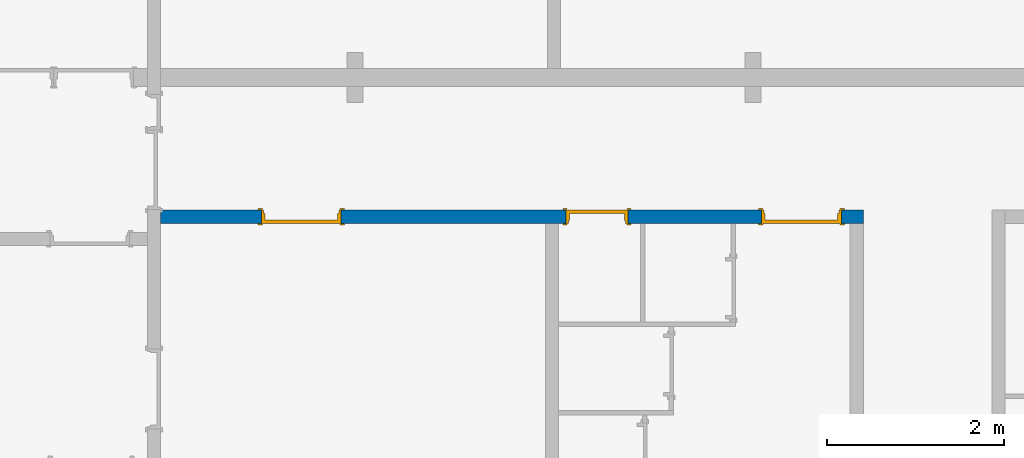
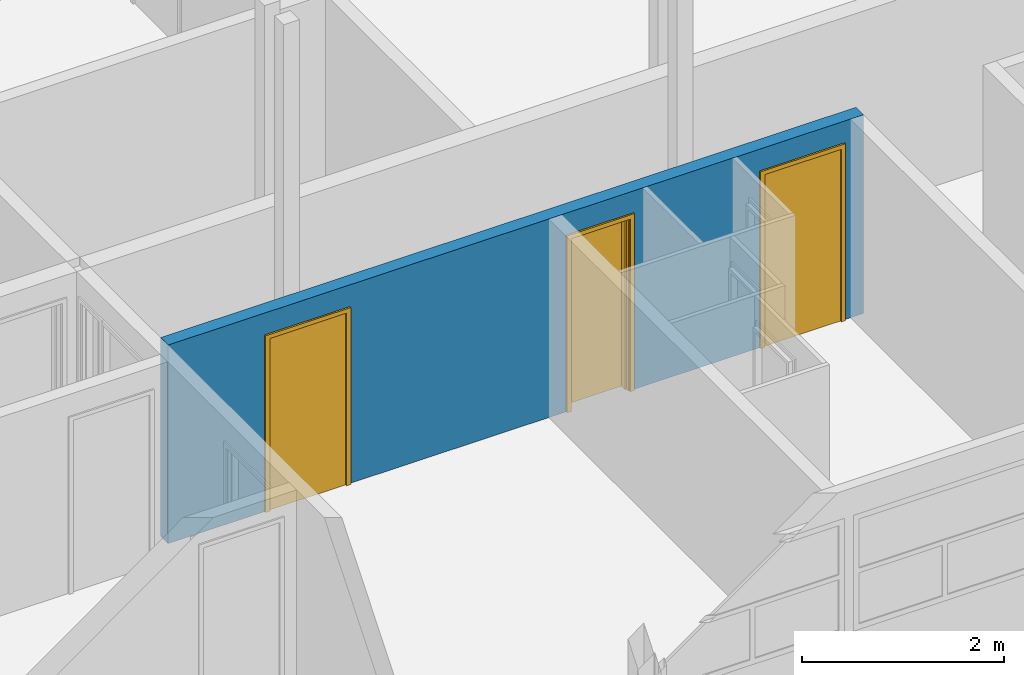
# One storey, part 13 of 48: 3 doors, 1 wall, 3 openings.
"""IFC2X3 building model written with IfcOpenShell, lengths in millimetres."""

from ifc_helpers import new_model, entity, si_unit, converted_unit, derived_unit, money_unit, direction, frame, origin_with_axes, place, context, subcontext, project, spatial, faceted_brep, source, transform, mapped, material, type_object, element, fill, save


model = new_model("IFC2X3")

# Units and contexts
model_context = context("Model", 3, precision=0.01, world=origin_with_axes(), true_north=direction((0.0, 1.0)))
body_context = subcontext(model_context, "Body", "Model", "MODEL_VIEW")
ifc_project = project(units=[si_unit("LENGTHUNIT", "METRE", prefix="MILLI"), si_unit("AREAUNIT", "SQUARE_METRE"), si_unit("VOLUMEUNIT", "CUBIC_METRE"), converted_unit("PLANEANGLEUNIT", "DEGREE", entity("IfcPlaneAngleMeasure", 0.0174532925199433), si_unit("PLANEANGLEUNIT", "RADIAN"), dimensions=[0, 0, 0, 0, 0, 0, 0]), money_unit("USD"), converted_unit("TIMEUNIT", "Year", entity("IfcTimeMeasure", 31557600.0), si_unit("TIMEUNIT", "SECOND"), dimensions=[0, 0, 1, 0, 0, 0, 0]), si_unit("MASSUNIT", "GRAM", prefix="KILO"), si_unit("THERMODYNAMICTEMPERATUREUNIT", "DEGREE_CELSIUS"), si_unit("LUMINOUSINTENSITYUNIT", "LUMEN"), si_unit("ENERGYUNIT", "JOULE", prefix="MEGA"), derived_unit("THERMALCONDUCTANCEUNIT", [(si_unit("POWERUNIT", "WATT"), 1), (si_unit("LENGTHUNIT", "METRE"), -1), (si_unit("THERMODYNAMICTEMPERATUREUNIT", "KELVIN"), -1)]), derived_unit("SPECIFICHEATCAPACITYUNIT", [(si_unit("ENERGYUNIT", "JOULE"), 1), (si_unit("MASSUNIT", "GRAM", prefix="KILO"), -1), (si_unit("THERMODYNAMICTEMPERATUREUNIT", "KELVIN"), -1)]), derived_unit("MASSDENSITYUNIT", [(si_unit("MASSUNIT", "GRAM", prefix="KILO"), 1), (si_unit("VOLUMEUNIT", "CUBIC_METRE"), -1)])], contexts=[model_context])

# Site, building, storey
site_placement = place(None, origin_with_axes())
site = spatial("IfcSite", under=ifc_project, at=site_placement, Name="Site", CompositionType="ELEMENT")
building_placement = place(site_placement, origin_with_axes())
building = spatial("IfcBuilding", under=site, at=building_placement, Name="Building", CompositionType="ELEMENT")
storey_placement = place(building_placement, frame((0.0, 0.0, 3300.0), z_axis=(0.0, 0.0, 1.0), x_axis=(1.0, 0.0, 0.0)))
storey = spatial("IfcBuildingStorey", under=building, at=storey_placement, Name="1 ETG", CompositionType="ELEMENT", Elevation=3300.0)

# Wall, openings, doors
ifc_material = material(Name="GENERIC - INTERNAL FILLER")
wall_type = type_object("IfcWallType", Name="GENERIC - INTERNAL FILLER 150", PredefinedType="NOTDEFINED")
wall_placement = place(storey_placement, frame((24800.2662126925, 12999.87497638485, 0.0), z_axis=(0.0, 0.0, 1.0), x_axis=(1.0, 0.0, 0.0)))
wall = element("IfcWall", 1, at=wall_placement, inside=storey, type_object=wall_type, material=ifc_material, Name="SW - 001", context=body_context, shape_type="Brep", body=[
    faceted_brep([(4584.487348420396, 0.0, 2100.0), (4584.487348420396, 0.0, 0.0), (2040.200949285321, 0.0, 0.0), (2040.200949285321, 0.0, 2100.0), (1140.200949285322, 0.0, 2100.0), (1140.200949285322, 0.0, 0.0), (0.0, 0.0, 0.0), (0.0, 0.0, 2400.0), (7946.894332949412, 0.0, 2400.0), (7946.894332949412, 0.0, 0.0), (7696.514391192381, 0.0, 0.0), (7696.514391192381, 0.0, 2100.0), (6796.514391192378, 0.0, 2100.0), (6796.514391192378, 0.0, 0.0), (5284.487348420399, 0.0, 0.0), (5284.487348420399, 0.0, 2100.0), (4584.487348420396, -150.0000000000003, 2100.0), (4584.487348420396, -150.0000000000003, 0.0), (2040.200949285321, -150.0000000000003, 0.0), (2040.200949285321, -150.0000000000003, 2100.0), (1140.200949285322, -150.0000000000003, 2100.0), (1140.200949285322, -150.0000000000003, 0.0), (0.0, -150.0000000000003, 0.0), (0.0, -150.0000000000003, 2400.0), (7946.894332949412, -149.9999999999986, 2400.0), (7946.894332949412, -150.0000000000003, 0.0), (7696.514391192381, -150.0000000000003, 0.0), (7696.514391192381, -150.0000000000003, 2100.0), (6796.514391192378, -150.0000000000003, 2100.0), (6796.514391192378, -150.0000000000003, 0.0), (5284.487348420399, -150.0000000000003, 0.0), (5284.487348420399, -150.0000000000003, 2100.0)], [[[0, 1, 2, 3, 4, 5, 6, 7, 8, 9, 10, 11, 12, 13, 14, 15]], [[1, 0, 16, 17]], [[1, 17, 18, 2]], [[18, 19, 3, 2]], [[19, 20, 4, 3]], [[20, 21, 5, 4]], [[22, 6, 5, 21]], [[6, 22, 23, 7]], [[23, 24, 8, 7]], [[9, 8, 24, 25]], [[10, 9, 25, 26]], [[10, 26, 27, 11]], [[11, 27, 28, 12]], [[12, 28, 29, 13]], [[30, 14, 13, 29]], [[15, 14, 30, 31]], [[0, 15, 31, 16]], [[31, 30, 29, 28, 27, 26, 25, 24, 23, 22, 21, 20, 19, 18, 17, 16]]]),
])
opening_1_placement = place(wall_placement, frame((1590.200949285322, 0.0, 0.0), z_axis=(0.0, 0.0, 1.0), x_axis=(1.0, 0.0, 0.0)))
opening_1 = element("IfcOpeningElement", 2, at=opening_1_placement, cuts=wall, Name="DOO - 002", context=body_context, shape_type="Brep", body=[
    faceted_brep([(-449.9999999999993, -150.0000000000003, 2100.0), (449.9999999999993, -150.0000000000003, 2100.0), (449.9999999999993, 0.0, 2100.0), (-449.9999999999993, 0.0, 2100.0), (449.9999999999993, -150.0000000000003, 0.0), (-449.9999999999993, -150.0000000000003, 0.0), (-486.9999999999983, -150.0000000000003, 0.0), (-486.9999999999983, -150.0000000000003, 2137.0), (486.9999999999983, -150.0000000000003, 2137.0), (486.9999999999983, -150.0000000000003, 0.0), (449.9999999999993, 0.0, 0.0), (486.9999999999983, 0.0, 0.0), (486.9999999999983, 0.0, 2137.0), (-486.9999999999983, 0.0, 2137.0), (-486.9999999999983, 0.0, 0.0), (-449.9999999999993, 0.0, 0.0), (-449.9999999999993, -150.9999999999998, 0.0), (-486.9999999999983, -150.9999999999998, 0.0), (-486.9999999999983, -150.9999999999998, 2137.0), (486.9999999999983, -150.9999999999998, 2137.0), (486.9999999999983, -150.9999999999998, 0.0), (449.9999999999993, -150.9999999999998, 0.0), (-449.9999999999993, 0.9999999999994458, 0.0), (449.9999999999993, 0.9999999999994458, 0.0), (486.9999999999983, 0.9999999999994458, 0.0), (486.9999999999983, 0.9999999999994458, 2137.0), (-486.9999999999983, 0.9999999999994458, 2137.0), (-486.9999999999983, 0.9999999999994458, 0.0), (-449.9999999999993, -150.9999999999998, 2100.0), (449.9999999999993, -150.9999999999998, 2100.0)], [[[0, 1, 2, 3]], [[4, 1, 0, 5, 6, 7, 8, 9]], [[1, 4, 10, 2]], [[3, 2, 10, 11, 12, 13, 14, 15]], [[5, 0, 3, 15]], [[5, 16, 17, 6]], [[7, 6, 17, 18]], [[8, 7, 18, 19]], [[9, 8, 19, 20]], [[21, 4, 9, 20]], [[16, 5, 15, 22, 23, 10, 4, 21]], [[10, 23, 24, 11]], [[12, 11, 24, 25]], [[13, 12, 25, 26]], [[14, 13, 26, 27]], [[22, 15, 14, 27]], [[28, 29, 21, 20, 19, 18, 17, 16]], [[23, 22, 27, 26, 25, 24]], [[28, 16, 21, 29]]]),
])
opening_2_placement = place(wall_placement, frame((4934.487348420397, 0.0, 0.0), z_axis=(0.0, 0.0, 1.0), x_axis=(1.0, 0.0, 0.0)))
opening_2 = element("IfcOpeningElement", 3, at=opening_2_placement, cuts=wall, Name="DOO - 002", context=body_context, shape_type="Brep", body=[
    faceted_brep([(-350.0000000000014, 0.9999999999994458, 2100.0), (350.0000000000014, 0.9999999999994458, 2100.0), (350.0000000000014, 0.9999999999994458, 0.0), (-350.0000000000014, 0.9999999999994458, 0.0), (-387.0000000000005, 0.9999999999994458, 0.0), (-387.0000000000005, 0.9999999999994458, 2137.0), (387.0000000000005, 0.9999999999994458, 2137.0), (387.0000000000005, 0.9999999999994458, 0.0), (-350.0000000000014, 0.0, 0.0), (350.0000000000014, 0.0, 0.0), (350.0000000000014, -150.0000000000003, 0.0), (350.0000000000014, -150.9999999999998, 0.0), (-350.0000000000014, -150.9999999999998, 0.0), (-350.0000000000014, -150.0000000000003, 0.0), (-387.0000000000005, 0.0, 0.0), (-387.0000000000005, 0.0, 2137.0), (387.0000000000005, 0.0, 2137.0), (387.0000000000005, 0.0, 0.0), (350.0000000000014, 0.0, 2100.0), (350.0000000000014, -150.0000000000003, 2100.0), (387.0000000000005, -150.0000000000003, 0.0), (387.0000000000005, -150.9999999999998, 0.0), (387.0000000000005, -150.9999999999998, 2137.0), (-387.0000000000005, -150.9999999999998, 2137.0), (-387.0000000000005, -150.9999999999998, 0.0), (-387.0000000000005, -150.0000000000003, 0.0), (-350.0000000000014, 0.0, 2100.0), (-350.0000000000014, -150.0000000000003, 2100.0), (-387.0000000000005, -150.0000000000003, 2137.0), (387.0000000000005, -150.0000000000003, 2137.0)], [[[0, 1, 2, 3]], [[2, 1, 0, 3, 4, 5, 6, 7]], [[8, 3, 2, 9, 10, 11, 12, 13]], [[3, 8, 14, 4]], [[14, 15, 5, 4]], [[15, 16, 6, 5]], [[16, 17, 7, 6]], [[9, 2, 7, 17]], [[9, 18, 19, 10]], [[11, 10, 20, 21]], [[12, 11, 21, 22, 23, 24]], [[13, 12, 24, 25]], [[26, 8, 13, 27]], [[26, 18, 9, 17, 16, 15, 14, 8]], [[18, 26, 27, 19]], [[10, 19, 27, 13, 25, 28, 29, 20]], [[20, 29, 22, 21]], [[29, 28, 23, 22]], [[28, 25, 24, 23]]]),
])
opening_3_placement = place(wall_placement, frame((7246.514391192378, 0.0, 0.0), z_axis=(0.0, 0.0, 1.0), x_axis=(1.0, 0.0, 0.0)))
opening_3 = element("IfcOpeningElement", 4, at=opening_3_placement, cuts=wall, Name="DOO - 002", context=body_context, shape_type="Brep", body=[
    faceted_brep([(-449.9999999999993, -150.0000000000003, 2100.0), (450.0000000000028, -150.0000000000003, 2100.0), (450.0000000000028, 0.0, 2100.0), (-449.9999999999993, 0.0, 2100.0), (450.0000000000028, -150.0000000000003, 0.0), (-449.9999999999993, -150.0000000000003, 0.0), (-486.9999999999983, -150.0000000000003, 0.0), (-486.9999999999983, -150.0000000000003, 2137.0), (487.0000000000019, -150.0000000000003, 2137.0), (487.0000000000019, -150.0000000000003, 0.0), (450.0000000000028, 0.0, 0.0), (487.0000000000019, 0.0, 0.0), (487.0000000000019, 0.0, 2137.0), (-486.9999999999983, 0.0, 2137.0), (-486.9999999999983, 0.0, 0.0), (-449.9999999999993, 0.0, 0.0), (-449.9999999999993, -150.9999999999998, 0.0), (-486.9999999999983, -150.9999999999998, 0.0), (-486.9999999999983, -150.9999999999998, 2137.0), (487.0000000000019, -150.9999999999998, 2137.0), (487.0000000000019, -150.9999999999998, 0.0), (450.0000000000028, -150.9999999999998, 0.0), (-449.9999999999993, 0.9999999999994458, 0.0), (450.0000000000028, 0.9999999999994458, 0.0), (487.0000000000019, 0.9999999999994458, 0.0), (487.0000000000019, 0.9999999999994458, 2137.0), (-486.9999999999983, 0.9999999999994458, 2137.0), (-486.9999999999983, 0.9999999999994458, 0.0), (-449.9999999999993, -150.9999999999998, 2100.0), (450.0000000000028, -150.9999999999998, 2100.0)], [[[0, 1, 2, 3]], [[4, 1, 0, 5, 6, 7, 8, 9]], [[1, 4, 10, 2]], [[3, 2, 10, 11, 12, 13, 14, 15]], [[5, 0, 3, 15]], [[5, 16, 17, 6]], [[7, 6, 17, 18]], [[8, 7, 18, 19]], [[9, 8, 19, 20]], [[21, 4, 9, 20]], [[16, 5, 15, 22, 23, 10, 4, 21]], [[10, 23, 24, 11]], [[12, 11, 24, 25]], [[13, 12, 25, 26]], [[14, 13, 26, 27]], [[22, 15, 14, 27]], [[28, 29, 21, 20, 19, 18, 17, 16]], [[23, 22, 27, 26, 25, 24]], [[28, 16, 21, 29]]]),
])
door_style_1 = type_object("IfcDoorStyle", Name="Dør", ConstructionType="NOTDEFINED", OperationType="SINGLE_SWING_RIGHT", ParameterTakesPrecedence=False, Sizeable=False)
shared_shape_1 = source(origin_with_axes(), body_context, "Body", "Brep", [
    faceted_brep([(-450.0, -115.0, 0.0), (-425.0, -115.0, 0.0), (-425.0, -150.0, 0.0), (-450.0, -150.0, 0.0), (-450.0, -115.0000000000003, 2100.0), (-425.0, -115.0000000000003, 2075.0), (-425.0, -150.0000000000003, 2075.0), (-450.0, -150.0000000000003, 2100.0)], [[[0, 1, 2, 3]], [[0, 4, 5, 1]], [[1, 5, 6, 2]], [[3, 2, 6, 7]], [[4, 0, 3, 7]], [[5, 4, 7, 6]]]),
    faceted_brep([(450.0, -115.0000000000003, 2100.0), (425.0, -115.0000000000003, 2075.0), (425.0, -150.0000000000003, 2075.0), (450.0, -150.0000000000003, 2100.0), (450.0, -115.0, 0.0), (425.0, -115.0, 0.0), (425.0, -150.0, 0.0), (450.0, -150.0, 0.0)], [[[0, 1, 2, 3]], [[0, 4, 5, 1]], [[1, 5, 6, 2]], [[3, 2, 6, 7]], [[4, 0, 3, 7]], [[5, 4, 7, 6]]]),
    faceted_brep([(-425.0, -115.0000000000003, 2075.0), (425.0, -115.0000000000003, 2075.0), (425.0, -150.0000000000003, 2075.0), (-425.0, -150.0000000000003, 2075.0), (-450.0, -115.0000000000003, 2100.0), (450.0, -115.0000000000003, 2100.0), (450.0, -150.0000000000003, 2100.0), (-450.0, -150.0000000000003, 2100.0)], [[[0, 1, 2, 3]], [[0, 4, 5, 1]], [[1, 5, 6, 2]], [[3, 2, 6, 7]], [[4, 0, 3, 7]], [[5, 4, 7, 6]]]),
    faceted_brep([(-487.0, -169.0, 0.0), (-487.0, -150.0, 0.0), (-437.0, -150.0, 0.0), (-437.0, -169.0, 0.0), (-487.0, -169.0000000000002, 2137.0), (-487.0, -150.0000000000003, 2137.0), (-437.0, -150.0000000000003, 2087.0), (-437.0, -169.0000000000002, 2087.0)], [[[0, 1, 2, 3]], [[4, 5, 1, 0]], [[1, 5, 6, 2]], [[3, 2, 6, 7]], [[0, 3, 7, 4]], [[7, 6, 5, 4]]]),
    faceted_brep([(487.0, -169.0000000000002, 2137.0), (487.0, -150.0000000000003, 2137.0), (437.0, -150.0000000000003, 2087.0), (437.0, -169.0000000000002, 2087.0), (487.0, -169.0, 0.0), (487.0, -150.0, 0.0), (437.0, -150.0, 0.0), (437.0, -169.0, 0.0)], [[[0, 1, 2, 3]], [[4, 5, 1, 0]], [[1, 5, 6, 2]], [[3, 2, 6, 7]], [[0, 3, 7, 4]], [[7, 6, 5, 4]]]),
    faceted_brep([(-487.0, -169.0000000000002, 2137.0), (-487.0, -150.0000000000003, 2137.0), (-437.0, -150.0000000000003, 2087.0), (-437.0, -169.0000000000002, 2087.0), (487.0, -169.0000000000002, 2137.0), (487.0, -150.0000000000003, 2137.0), (437.0, -150.0000000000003, 2087.0), (437.0, -169.0000000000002, 2087.0)], [[[0, 1, 2, 3]], [[4, 5, 1, 0]], [[1, 5, 6, 2]], [[3, 2, 6, 7]], [[0, 3, 7, 4]], [[7, 6, 5, 4]]]),
    faceted_brep([(-487.0, 19.0, 0.0), (-437.0, 19.0, 0.0), (-437.0, 0.0, 0.0), (-487.0, 0.0, 0.0), (-487.0, 18.99999999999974, 2137.0), (-437.0, 18.99999999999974, 2087.0), (-437.0, 0.0, 2087.0), (-487.0, 0.0, 2137.0)], [[[0, 1, 2, 3]], [[0, 4, 5, 1]], [[1, 5, 6, 2]], [[3, 2, 6, 7]], [[4, 0, 3, 7]], [[5, 4, 7, 6]]]),
    faceted_brep([(487.0, 18.99999999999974, 2137.0), (437.0, 18.99999999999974, 2087.0), (437.0, 0.0, 2087.0), (487.0, 0.0, 2137.0), (487.0, 19.0, 0.0), (437.0, 19.0, 0.0), (437.0, 0.0, 0.0), (487.0, 0.0, 0.0)], [[[0, 1, 2, 3]], [[0, 4, 5, 1]], [[1, 5, 6, 2]], [[3, 2, 6, 7]], [[4, 0, 3, 7]], [[5, 4, 7, 6]]]),
    faceted_brep([(-487.0, 18.99999999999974, 2137.0), (-437.0, 18.99999999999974, 2087.0), (-437.0, 0.0, 2087.0), (-487.0, 0.0, 2137.0), (487.0, 18.99999999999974, 2137.0), (437.0, 18.99999999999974, 2087.0), (437.0, 0.0, 2087.0), (487.0, 0.0, 2137.0)], [[[0, 1, 2, 3]], [[0, 4, 5, 1]], [[1, 5, 6, 2]], [[3, 2, 6, 7]], [[4, 0, 3, 7]], [[5, 4, 7, 6]]]),
    faceted_brep([(-450.0, 0.0, 0.0), (-410.0000000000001, 0.0, 0.0), (-410.0000000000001, -115.0, 0.0), (-450.0, -115.0, 0.0), (-450.0, 0.0, 2060.0), (-410.0000000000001, 0.0, 2060.0), (-410.0000000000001, -115.0, 2060.0), (-450.0, -115.0, 2060.0)], [[[0, 1, 2, 3]], [[0, 4, 5, 1]], [[1, 5, 6, 2]], [[3, 2, 6, 7]], [[4, 0, 3, 7]], [[5, 4, 7, 6]]]),
    faceted_brep([(450.0, 0.0, 0.0), (450.0, 0.0, 2060.0), (450.0, -115.0, 2060.0), (450.0, -115.0, 0.0), (410.0000000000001, 0.0, 0.0), (410.0000000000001, 0.0, 2060.0), (410.0000000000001, -115.0, 2060.0), (410.0000000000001, -115.0, 0.0)], [[[0, 1, 2, 3]], [[0, 4, 5, 1]], [[1, 5, 6, 2]], [[3, 2, 6, 7]], [[4, 0, 3, 7]], [[5, 4, 7, 6]]]),
    faceted_brep([(-450.0, 0.0, 2100.0), (-450.0, 0.0, 2060.0), (-450.0, -115.0, 2060.0), (-450.0, -115.0, 2100.0), (450.0, 0.0, 2100.0), (450.0, 0.0, 2060.0), (410.0000000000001, 0.0, 2060.0), (-410.0000000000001, 0.0, 2060.0), (-410.0000000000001, -115.0, 2060.0), (410.0000000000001, -115.0, 2060.0), (450.0, -115.0, 2060.0), (450.0, -115.0, 2100.0)], [[[0, 1, 2, 3]], [[0, 4, 5, 6, 7, 1]], [[1, 7, 8, 2]], [[3, 2, 8, 9, 10, 11]], [[4, 0, 3, 11]], [[5, 4, 11, 10]], [[6, 5, 10, 9]], [[7, 6, 9, 8]]]),
    faceted_brep([(409.9999999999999, 0.0, 0.0), (409.9999999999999, -40.0, 0.0), (-410.0000000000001, -40.0, 0.0), (-410.0000000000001, 0.0, 0.0), (409.9999999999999, 0.0, 2060.0), (409.9999999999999, -40.00000000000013, 2060.0), (-410.0000000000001, -40.00000000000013, 2060.0), (-410.0000000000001, 0.0, 2060.0)], [[[0, 1, 2, 3]], [[4, 5, 1, 0]], [[1, 5, 6, 2]], [[3, 2, 6, 7]], [[0, 3, 7, 4]], [[7, 6, 5, 4]]]),
])
door_1_placement = place(opening_1_placement, frame((449.9999999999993, 0.0, 0.0), z_axis=(0.0, 0.0, 1.0), x_axis=(-1.0, 0.0, 0.0)))
door_1 = element("IfcDoor", 5, at=door_1_placement, inside=storey, type_object=door_style_1, Name="DOO - 002", ObjectType="DOOR", OverallHeight=2100.0, OverallWidth=900.0, context=body_context, shape_type="MappedRepresentation", body=[
    mapped(shared_shape_1, transform((449.9999999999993, 150.0000000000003, 0.0))),
])
fill(opening_1, door_1)
door_style_2 = type_object("IfcDoorStyle", Name="Dør", ConstructionType="NOTDEFINED", OperationType="SINGLE_SWING_LEFT", ParameterTakesPrecedence=False, Sizeable=False)
shared_shape_2 = source(origin_with_axes(), body_context, "Body", "Brep", [
    faceted_brep([(350.0, -115.0, 0.0), (350.0, -150.0, 0.0), (324.9999999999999, -150.0, 0.0), (324.9999999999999, -115.0, 0.0), (350.0, -115.0000000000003, 2100.0), (350.0, -150.0000000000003, 2100.0), (324.9999999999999, -150.0000000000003, 2075.0), (324.9999999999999, -115.0000000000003, 2075.0)], [[[0, 1, 2, 3]], [[4, 5, 1, 0]], [[1, 5, 6, 2]], [[3, 2, 6, 7]], [[0, 3, 7, 4]], [[7, 6, 5, 4]]]),
    faceted_brep([(-350.0, -115.0000000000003, 2100.0), (-350.0, -150.0000000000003, 2100.0), (-324.9999999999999, -150.0000000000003, 2075.0), (-324.9999999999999, -115.0000000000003, 2075.0), (-350.0, -115.0, 0.0), (-350.0, -150.0, 0.0), (-324.9999999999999, -150.0, 0.0), (-324.9999999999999, -115.0, 0.0)], [[[0, 1, 2, 3]], [[4, 5, 1, 0]], [[1, 5, 6, 2]], [[3, 2, 6, 7]], [[0, 3, 7, 4]], [[7, 6, 5, 4]]]),
    faceted_brep([(324.9999999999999, -115.0000000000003, 2075.0), (324.9999999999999, -150.0000000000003, 2075.0), (-324.9999999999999, -150.0000000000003, 2075.0), (-324.9999999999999, -115.0000000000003, 2075.0), (350.0, -115.0000000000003, 2100.0), (350.0, -150.0000000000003, 2100.0), (-350.0, -150.0000000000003, 2100.0), (-350.0, -115.0000000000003, 2100.0)], [[[0, 1, 2, 3]], [[4, 5, 1, 0]], [[1, 5, 6, 2]], [[3, 2, 6, 7]], [[0, 3, 7, 4]], [[7, 6, 5, 4]]]),
    faceted_brep([(386.9999999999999, -169.0, 0.0), (336.9999999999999, -169.0, 0.0), (336.9999999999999, -150.0, 0.0), (386.9999999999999, -150.0, 0.0), (386.9999999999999, -169.0000000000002, 2137.0), (336.9999999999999, -169.0000000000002, 2087.0), (336.9999999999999, -150.0000000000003, 2087.0), (386.9999999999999, -150.0000000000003, 2137.0)], [[[0, 1, 2, 3]], [[0, 4, 5, 1]], [[1, 5, 6, 2]], [[3, 2, 6, 7]], [[4, 0, 3, 7]], [[5, 4, 7, 6]]]),
    faceted_brep([(-386.9999999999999, -169.0000000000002, 2137.0), (-336.9999999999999, -169.0000000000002, 2087.0), (-336.9999999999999, -150.0000000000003, 2087.0), (-386.9999999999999, -150.0000000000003, 2137.0), (-386.9999999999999, -169.0, 0.0), (-336.9999999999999, -169.0, 0.0), (-336.9999999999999, -150.0, 0.0), (-386.9999999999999, -150.0, 0.0)], [[[0, 1, 2, 3]], [[0, 4, 5, 1]], [[1, 5, 6, 2]], [[3, 2, 6, 7]], [[4, 0, 3, 7]], [[5, 4, 7, 6]]]),
    faceted_brep([(386.9999999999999, -169.0000000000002, 2137.0), (336.9999999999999, -169.0000000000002, 2087.0), (336.9999999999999, -150.0000000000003, 2087.0), (386.9999999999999, -150.0000000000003, 2137.0), (-386.9999999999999, -169.0000000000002, 2137.0), (-336.9999999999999, -169.0000000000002, 2087.0), (-336.9999999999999, -150.0000000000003, 2087.0), (-386.9999999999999, -150.0000000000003, 2137.0)], [[[0, 1, 2, 3]], [[0, 4, 5, 1]], [[1, 5, 6, 2]], [[3, 2, 6, 7]], [[4, 0, 3, 7]], [[5, 4, 7, 6]]]),
    faceted_brep([(386.9999999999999, 19.0, 0.0), (386.9999999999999, 0.0, 0.0), (336.9999999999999, 0.0, 0.0), (336.9999999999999, 19.0, 0.0), (386.9999999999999, 18.99999999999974, 2137.0), (386.9999999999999, 0.0, 2137.0), (336.9999999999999, 0.0, 2087.0), (336.9999999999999, 18.99999999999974, 2087.0)], [[[0, 1, 2, 3]], [[4, 5, 1, 0]], [[1, 5, 6, 2]], [[3, 2, 6, 7]], [[0, 3, 7, 4]], [[7, 6, 5, 4]]]),
    faceted_brep([(-386.9999999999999, 18.99999999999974, 2137.0), (-386.9999999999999, 0.0, 2137.0), (-336.9999999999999, 0.0, 2087.0), (-336.9999999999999, 18.99999999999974, 2087.0), (-386.9999999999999, 19.0, 0.0), (-386.9999999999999, 0.0, 0.0), (-336.9999999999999, 0.0, 0.0), (-336.9999999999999, 19.0, 0.0)], [[[0, 1, 2, 3]], [[4, 5, 1, 0]], [[1, 5, 6, 2]], [[3, 2, 6, 7]], [[0, 3, 7, 4]], [[7, 6, 5, 4]]]),
    faceted_brep([(387.0, 18.99999999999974, 2137.0), (387.0, 0.0, 2137.0), (336.9999999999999, 0.0, 2087.0), (336.9999999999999, 18.99999999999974, 2087.0), (-387.0, 18.99999999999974, 2137.0), (-387.0, 0.0, 2137.0), (-336.9999999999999, 0.0, 2087.0), (-336.9999999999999, 18.99999999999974, 2087.0)], [[[0, 1, 2, 3]], [[4, 5, 1, 0]], [[1, 5, 6, 2]], [[3, 2, 6, 7]], [[0, 3, 7, 4]], [[7, 6, 5, 4]]]),
    faceted_brep([(350.0, 0.0, 0.0), (350.0, -115.0, 0.0), (310.0, -115.0, 0.0), (310.0, 0.0, 0.0), (350.0, 0.0, 2060.0), (350.0, -115.0, 2060.0), (310.0, -115.0, 2060.0), (310.0, 0.0, 2060.0)], [[[0, 1, 2, 3]], [[4, 5, 1, 0]], [[1, 5, 6, 2]], [[3, 2, 6, 7]], [[0, 3, 7, 4]], [[7, 6, 5, 4]]]),
    faceted_brep([(-350.0, 0.0, 0.0), (-350.0, -115.0, 0.0), (-350.0, -115.0, 2060.0), (-350.0, 0.0, 2060.0), (-310.0, 0.0, 0.0), (-310.0, -115.0, 0.0), (-310.0, -115.0, 2060.0), (-310.0, 0.0, 2060.0)], [[[0, 1, 2, 3]], [[4, 5, 1, 0]], [[1, 5, 6, 2]], [[3, 2, 6, 7]], [[0, 3, 7, 4]], [[7, 6, 5, 4]]]),
    faceted_brep([(350.0, 0.0, 2100.0), (350.0, -115.0, 2100.0), (350.0, -115.0, 2060.0), (350.0, 0.0, 2060.0), (-350.0, 0.0, 2100.0), (-350.0, -115.0, 2100.0), (-350.0, -115.0, 2060.0), (-310.0, -115.0, 2060.0), (310.0, -115.0, 2060.0), (310.0, 0.0, 2060.0), (-310.0, 0.0, 2060.0), (-350.0, 0.0, 2060.0)], [[[0, 1, 2, 3]], [[4, 5, 1, 0]], [[1, 5, 6, 7, 8, 2]], [[3, 2, 8, 9]], [[0, 3, 9, 10, 11, 4]], [[11, 6, 5, 4]], [[10, 7, 6, 11]], [[9, 8, 7, 10]]]),
    faceted_brep([(-309.9999999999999, 0.0, 0.0), (310.0, 0.0, 0.0), (310.0, -40.0, 0.0), (-309.9999999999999, -40.0, 0.0), (-309.9999999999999, 0.0, 2060.0), (310.0, 0.0, 2060.0), (310.0, -40.00000000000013, 2060.0), (-309.9999999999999, -40.00000000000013, 2060.0)], [[[0, 1, 2, 3]], [[0, 4, 5, 1]], [[1, 5, 6, 2]], [[3, 2, 6, 7]], [[4, 0, 3, 7]], [[5, 4, 7, 6]]]),
])
door_2_placement = place(opening_2_placement, frame((-350.0000000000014, 0.0, 0.0), z_axis=(0.0, 0.0, 1.0), x_axis=(1.0, 0.0, 0.0)))
door_2 = element("IfcDoor", 6, at=door_2_placement, inside=storey, type_object=door_style_2, Name="DOO - 002", ObjectType="DOOR", OverallHeight=2100.0, OverallWidth=700.0, context=body_context, shape_type="MappedRepresentation", body=[
    mapped(shared_shape_2, transform((350.0000000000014, 0.0, 0.0))),
])
fill(opening_2, door_2)
door_style_3 = type_object("IfcDoorStyle", Name="Dør", ConstructionType="NOTDEFINED", OperationType="SINGLE_SWING_LEFT", ParameterTakesPrecedence=False, Sizeable=False)
shared_shape_3 = source(origin_with_axes(), body_context, "Body", "Brep", [
    faceted_brep([(450.0, -115.0, 0.0), (450.0, -150.0, 0.0), (425.0, -150.0, 0.0), (425.0, -115.0, 0.0), (450.0, -115.0000000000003, 2100.0), (450.0, -150.0000000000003, 2100.0), (425.0, -150.0000000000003, 2075.0), (425.0, -115.0000000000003, 2075.0)], [[[0, 1, 2, 3]], [[4, 5, 1, 0]], [[1, 5, 6, 2]], [[3, 2, 6, 7]], [[0, 3, 7, 4]], [[7, 6, 5, 4]]]),
    faceted_brep([(-450.0, -115.0000000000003, 2100.0), (-450.0, -150.0000000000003, 2100.0), (-425.0, -150.0000000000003, 2075.0), (-425.0, -115.0000000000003, 2075.0), (-450.0, -115.0, 0.0), (-450.0, -150.0, 0.0), (-425.0, -150.0, 0.0), (-425.0, -115.0, 0.0)], [[[0, 1, 2, 3]], [[4, 5, 1, 0]], [[1, 5, 6, 2]], [[3, 2, 6, 7]], [[0, 3, 7, 4]], [[7, 6, 5, 4]]]),
    faceted_brep([(425.0, -115.0000000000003, 2075.0), (425.0, -150.0000000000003, 2075.0), (-425.0, -150.0000000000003, 2075.0), (-425.0, -115.0000000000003, 2075.0), (450.0, -115.0000000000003, 2100.0), (450.0, -150.0000000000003, 2100.0), (-450.0, -150.0000000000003, 2100.0), (-450.0, -115.0000000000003, 2100.0)], [[[0, 1, 2, 3]], [[4, 5, 1, 0]], [[1, 5, 6, 2]], [[3, 2, 6, 7]], [[0, 3, 7, 4]], [[7, 6, 5, 4]]]),
    faceted_brep([(487.0, -169.0, 0.0), (437.0, -169.0, 0.0), (437.0, -150.0, 0.0), (487.0, -150.0, 0.0), (487.0, -169.0000000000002, 2137.0), (437.0, -169.0000000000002, 2087.0), (437.0, -150.0000000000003, 2087.0), (487.0, -150.0000000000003, 2137.0)], [[[0, 1, 2, 3]], [[0, 4, 5, 1]], [[1, 5, 6, 2]], [[3, 2, 6, 7]], [[4, 0, 3, 7]], [[5, 4, 7, 6]]]),
    faceted_brep([(-487.0, -169.0000000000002, 2137.0), (-437.0, -169.0000000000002, 2087.0), (-437.0, -150.0000000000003, 2087.0), (-487.0, -150.0000000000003, 2137.0), (-487.0, -169.0, 0.0), (-437.0, -169.0, 0.0), (-437.0, -150.0, 0.0), (-487.0, -150.0, 0.0)], [[[0, 1, 2, 3]], [[0, 4, 5, 1]], [[1, 5, 6, 2]], [[3, 2, 6, 7]], [[4, 0, 3, 7]], [[5, 4, 7, 6]]]),
    faceted_brep([(487.0, -169.0000000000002, 2137.0), (437.0, -169.0000000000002, 2087.0), (437.0, -150.0000000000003, 2087.0), (487.0, -150.0000000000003, 2137.0), (-487.0, -169.0000000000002, 2137.0), (-437.0, -169.0000000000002, 2087.0), (-437.0, -150.0000000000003, 2087.0), (-487.0, -150.0000000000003, 2137.0)], [[[0, 1, 2, 3]], [[0, 4, 5, 1]], [[1, 5, 6, 2]], [[3, 2, 6, 7]], [[4, 0, 3, 7]], [[5, 4, 7, 6]]]),
    faceted_brep([(487.0, 19.0, 0.0), (487.0, 0.0, 0.0), (437.0, 0.0, 0.0), (437.0, 19.0, 0.0), (487.0, 18.99999999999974, 2137.0), (487.0, 0.0, 2137.0), (437.0, 0.0, 2087.0), (437.0, 18.99999999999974, 2087.0)], [[[0, 1, 2, 3]], [[4, 5, 1, 0]], [[1, 5, 6, 2]], [[3, 2, 6, 7]], [[0, 3, 7, 4]], [[7, 6, 5, 4]]]),
    faceted_brep([(-487.0, 18.99999999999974, 2137.0), (-487.0, 0.0, 2137.0), (-437.0, 0.0, 2087.0), (-437.0, 18.99999999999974, 2087.0), (-487.0, 19.0, 0.0), (-487.0, 0.0, 0.0), (-437.0, 0.0, 0.0), (-437.0, 19.0, 0.0)], [[[0, 1, 2, 3]], [[4, 5, 1, 0]], [[1, 5, 6, 2]], [[3, 2, 6, 7]], [[0, 3, 7, 4]], [[7, 6, 5, 4]]]),
    faceted_brep([(487.0, 18.99999999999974, 2137.0), (487.0, 0.0, 2137.0), (437.0, 0.0, 2087.0), (437.0, 18.99999999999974, 2087.0), (-487.0, 18.99999999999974, 2137.0), (-487.0, 0.0, 2137.0), (-437.0, 0.0, 2087.0), (-437.0, 18.99999999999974, 2087.0)], [[[0, 1, 2, 3]], [[4, 5, 1, 0]], [[1, 5, 6, 2]], [[3, 2, 6, 7]], [[0, 3, 7, 4]], [[7, 6, 5, 4]]]),
    faceted_brep([(450.0, 0.0, 0.0), (450.0, -115.0, 0.0), (410.0000000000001, -115.0, 0.0), (410.0000000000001, 0.0, 0.0), (450.0, 0.0, 2060.0), (450.0, -115.0, 2060.0), (410.0000000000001, -115.0, 2060.0), (410.0000000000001, 0.0, 2060.0)], [[[0, 1, 2, 3]], [[4, 5, 1, 0]], [[1, 5, 6, 2]], [[3, 2, 6, 7]], [[0, 3, 7, 4]], [[7, 6, 5, 4]]]),
    faceted_brep([(-450.0, 0.0, 0.0), (-450.0, -115.0, 0.0), (-450.0, -115.0, 2060.0), (-450.0, 0.0, 2060.0), (-410.0000000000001, 0.0, 0.0), (-410.0000000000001, -115.0, 0.0), (-410.0000000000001, -115.0, 2060.0), (-410.0000000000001, 0.0, 2060.0)], [[[0, 1, 2, 3]], [[4, 5, 1, 0]], [[1, 5, 6, 2]], [[3, 2, 6, 7]], [[0, 3, 7, 4]], [[7, 6, 5, 4]]]),
    faceted_brep([(450.0, 0.0, 2100.0), (450.0, -115.0, 2100.0), (450.0, -115.0, 2060.0), (450.0, 0.0, 2060.0), (-450.0, 0.0, 2100.0), (-450.0, -115.0, 2100.0), (-450.0, -115.0, 2060.0), (-410.0000000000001, -115.0, 2060.0), (410.0000000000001, -115.0, 2060.0), (410.0000000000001, 0.0, 2060.0), (-410.0000000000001, 0.0, 2060.0), (-450.0, 0.0, 2060.0)], [[[0, 1, 2, 3]], [[4, 5, 1, 0]], [[1, 5, 6, 7, 8, 2]], [[3, 2, 8, 9]], [[0, 3, 9, 10, 11, 4]], [[11, 6, 5, 4]], [[10, 7, 6, 11]], [[9, 8, 7, 10]]]),
    faceted_brep([(-409.9999999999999, 0.0, 0.0), (410.0000000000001, 0.0, 0.0), (410.0000000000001, -40.0, 0.0), (-409.9999999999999, -40.0, 0.0), (-409.9999999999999, 0.0, 2060.0), (410.0000000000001, 0.0, 2060.0), (410.0000000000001, -40.00000000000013, 2060.0), (-409.9999999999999, -40.00000000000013, 2060.0)], [[[0, 1, 2, 3]], [[0, 4, 5, 1]], [[1, 5, 6, 2]], [[3, 2, 6, 7]], [[4, 0, 3, 7]], [[5, 4, 7, 6]]]),
])
door_3_placement = place(opening_3_placement, frame((450.0000000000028, 0.0, 0.0), z_axis=(0.0, 0.0, 1.0), x_axis=(-1.0, 0.0, 0.0)))
door_3 = element("IfcDoor", 7, at=door_3_placement, inside=storey, type_object=door_style_3, Name="DOO - 002", ObjectType="DOOR", OverallHeight=2100.0, OverallWidth=900.0, context=body_context, shape_type="MappedRepresentation", body=[
    mapped(shared_shape_3, transform((450.0000000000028, 150.0000000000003, 0.0))),
])
fill(opening_3, door_3)

save(model, "model.ifc")
